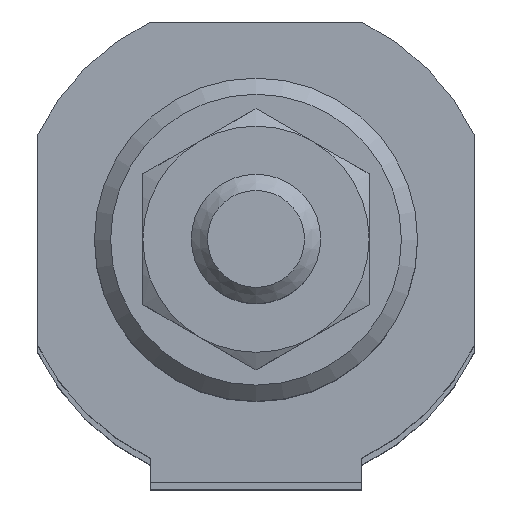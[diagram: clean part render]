
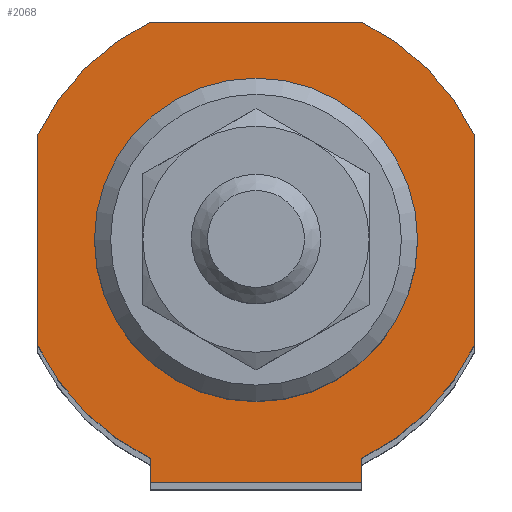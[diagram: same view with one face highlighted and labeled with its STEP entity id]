
A CAD part, top view. The second image highlights one B-rep face of the part: STEP entity #2068.
In plain terms, the highlighted planar face has unit normal (0, 0, 1).
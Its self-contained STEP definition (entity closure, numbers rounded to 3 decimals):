
#1123=CARTESIAN_POINT('',(6.538,-15.0,284.0));
#1124=VERTEX_POINT('',#1123);
#1125=CARTESIAN_POINT('',(-6.538,-15.0,284.0));
#1126=VERTEX_POINT('',#1125);
#1127=CARTESIAN_POINT('',(6.538,-15.0,284.0));
#1128=DIRECTION('',(-1.0,0.0,0.0));
#1129=VECTOR('',#1128,13.077);
#1130=LINE('',#1127,#1129);
#1131=EDGE_CURVE('',#1124,#1126,#1130,.T.);
#1420=CARTESIAN_POINT('',(-6.538,-13.5,284.0));
#1421=VERTEX_POINT('',#1420);
#1435=CARTESIAN_POINT('',(-6.538,-13.5,284.0));
#1436=DIRECTION('',(0.0,-1.0,0.0));
#1437=VECTOR('',#1436,1.5);
#1438=LINE('',#1435,#1437);
#1439=EDGE_CURVE('',#1421,#1126,#1438,.T.);
#1451=CARTESIAN_POINT('',(6.538,-13.5,284.0));
#1452=VERTEX_POINT('',#1451);
#1459=CARTESIAN_POINT('',(6.538,-13.5,284.0));
#1460=DIRECTION('',(0.0,-1.0,0.0));
#1461=VECTOR('',#1460,1.5);
#1462=LINE('',#1459,#1461);
#1463=EDGE_CURVE('',#1452,#1124,#1462,.T.);
#1788=CARTESIAN_POINT('',(10.0,0.,284.0));
#1789=VERTEX_POINT('',#1788);
#1790=CARTESIAN_POINT('',(0.,0.,284.0));
#1791=DIRECTION('',(0.0,0.0,-1.0));
#1792=DIRECTION('',(-1.0,0.0,0.0));
#1793=AXIS2_PLACEMENT_3D('',#1790,#1791,#1792);
#1794=CIRCLE('',#1793,10.0);
#1795=EDGE_CURVE('',#1789,#1789,#1794,.T.);
#1888=CARTESIAN_POINT('',(6.538,13.5,284.0));
#1889=VERTEX_POINT('',#1888);
#1890=CARTESIAN_POINT('',(13.5,6.538,284.0));
#1891=VERTEX_POINT('',#1890);
#1892=CARTESIAN_POINT('',(0.0,0.0,284.0));
#1893=DIRECTION('',(0.0,0.0,-1.));
#1894=DIRECTION('',(-0.9,-0.436,0.0));
#1895=AXIS2_PLACEMENT_3D('',#1892,#1893,#1894);
#1896=CIRCLE('',#1895,15.);
#1897=EDGE_CURVE('',#1889,#1891,#1896,.T.);
#1920=CARTESIAN_POINT('',(13.5,-6.538,284.0));
#1921=VERTEX_POINT('',#1920);
#1922=CARTESIAN_POINT('',(13.5,6.538,284.0));
#1923=DIRECTION('',(0.0,-1.0,0.0));
#1924=VECTOR('',#1923,13.077);
#1925=LINE('',#1922,#1924);
#1926=EDGE_CURVE('',#1891,#1921,#1925,.T.);
#1944=CARTESIAN_POINT('',(0.0,0.0,284.0));
#1945=DIRECTION('',(0.0,0.0,-1.));
#1946=DIRECTION('',(-0.436,0.9,0.0));
#1947=AXIS2_PLACEMENT_3D('',#1944,#1945,#1946);
#1948=CIRCLE('',#1947,15.);
#1949=EDGE_CURVE('',#1921,#1452,#1948,.T.);
#1962=CARTESIAN_POINT('',(-13.5,-6.538,284.0));
#1963=VERTEX_POINT('',#1962);
#1964=CARTESIAN_POINT('',(0.0,0.0,284.0));
#1965=DIRECTION('',(0.0,0.0,-1.));
#1966=DIRECTION('',(0.9,0.436,0.0));
#1967=AXIS2_PLACEMENT_3D('',#1964,#1965,#1966);
#1968=CIRCLE('',#1967,15.);
#1969=EDGE_CURVE('',#1421,#1963,#1968,.T.);
#1987=CARTESIAN_POINT('',(-13.5,6.538,284.0));
#1988=VERTEX_POINT('',#1987);
#1989=CARTESIAN_POINT('',(-13.5,-6.538,284.0));
#1990=DIRECTION('',(0.0,1.0,0.0));
#1991=VECTOR('',#1990,13.077);
#1992=LINE('',#1989,#1991);
#1993=EDGE_CURVE('',#1963,#1988,#1992,.T.);
#2011=CARTESIAN_POINT('',(-6.538,13.5,284.0));
#2012=VERTEX_POINT('',#2011);
#2013=CARTESIAN_POINT('',(0.0,0.0,284.0));
#2014=DIRECTION('',(0.0,0.0,-1.));
#2015=DIRECTION('',(0.436,-0.9,0.0));
#2016=AXIS2_PLACEMENT_3D('',#2013,#2014,#2015);
#2017=CIRCLE('',#2016,15.);
#2018=EDGE_CURVE('',#1988,#2012,#2017,.T.);
#2036=CARTESIAN_POINT('',(-6.538,13.5,284.0));
#2037=DIRECTION('',(1.0,0.0,0.0));
#2038=VECTOR('',#2037,13.077);
#2039=LINE('',#2036,#2038);
#2040=EDGE_CURVE('',#2012,#1889,#2039,.T.);
#2048=CARTESIAN_POINT('',(0.,0.0,284.0));
#2049=DIRECTION('',(0.0,0.0,1.0));
#2050=DIRECTION('',(1.0,0.0,0.0));
#2051=AXIS2_PLACEMENT_3D('',#2048,#2049,#2050);
#2052=PLANE('',#2051);
#2053=ORIENTED_EDGE('',*,*,#1897,.F.);
#2054=ORIENTED_EDGE('',*,*,#2040,.F.);
#2055=ORIENTED_EDGE('',*,*,#2018,.F.);
#2056=ORIENTED_EDGE('',*,*,#1993,.F.);
#2057=ORIENTED_EDGE('',*,*,#1969,.F.);
#2058=ORIENTED_EDGE('',*,*,#1439,.T.);
#2059=ORIENTED_EDGE('',*,*,#1131,.F.);
#2060=ORIENTED_EDGE('',*,*,#1463,.F.);
#2061=ORIENTED_EDGE('',*,*,#1949,.F.);
#2062=ORIENTED_EDGE('',*,*,#1926,.F.);
#2063=EDGE_LOOP('',(#2053,#2054,#2055,#2056,#2057,#2058,#2059,#2060,#2061,#2062));
#2064=FACE_OUTER_BOUND('',#2063,.T.);
#2065=ORIENTED_EDGE('',*,*,#1795,.T.);
#2066=EDGE_LOOP('',(#2065));
#2067=FACE_BOUND('',#2066,.T.);
#2068=ADVANCED_FACE('',(#2064,#2067),#2052,.T.);
